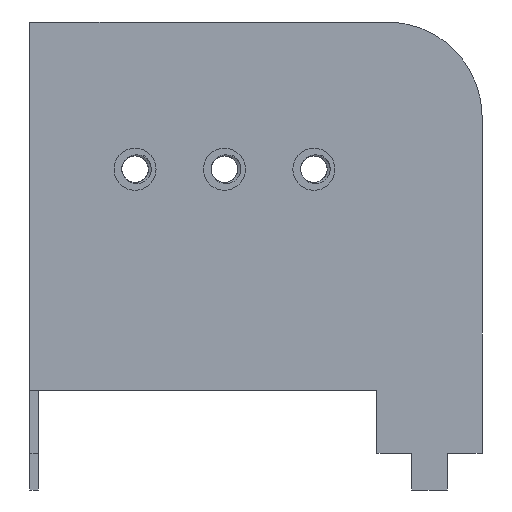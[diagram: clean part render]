
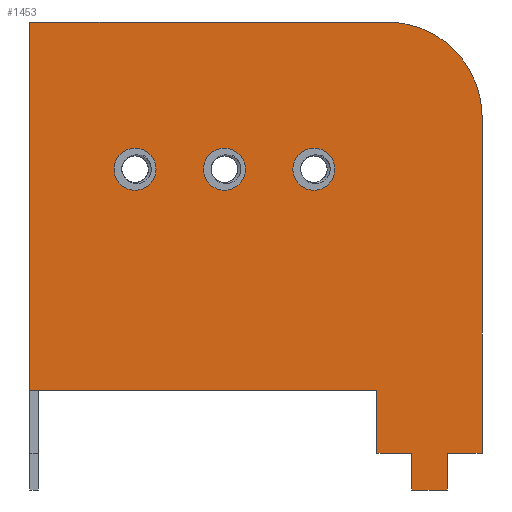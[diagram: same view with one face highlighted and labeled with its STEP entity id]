
A CAD part, front view. The second image highlights one B-rep face of the part: STEP entity #1453.
In plain terms, the highlighted planar face has unit normal (0, -1, 0).
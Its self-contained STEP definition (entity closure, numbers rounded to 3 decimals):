
#26=FACE_BOUND('',#194,.T.);
#27=FACE_BOUND('',#195,.T.);
#28=FACE_BOUND('',#196,.T.);
#48=PLANE('',#1563);
#110=FACE_OUTER_BOUND('',#193,.T.);
#193=EDGE_LOOP('',(#1119,#1120,#1121,#1122,#1123,#1124,#1125,#1126,#1127,
#1128,#1129));
#194=EDGE_LOOP('',(#1130));
#195=EDGE_LOOP('',(#1131));
#196=EDGE_LOOP('',(#1132));
#256=CIRCLE('',#1564,9.);
#257=CIRCLE('',#1565,2.);
#258=CIRCLE('',#1566,2.);
#259=CIRCLE('',#1567,2.);
#424=LINE('',#3176,#521);
#425=LINE('',#3178,#522);
#426=LINE('',#3180,#523);
#427=LINE('',#3182,#524);
#428=LINE('',#3184,#525);
#429=LINE('',#3186,#526);
#430=LINE('',#3188,#527);
#431=LINE('',#3190,#528);
#432=LINE('',#3194,#529);
#433=LINE('',#3195,#530);
#521=VECTOR('',#1800,10.);
#522=VECTOR('',#1801,10.);
#523=VECTOR('',#1802,10.);
#524=VECTOR('',#1803,10.);
#525=VECTOR('',#1804,10.);
#526=VECTOR('',#1805,10.);
#527=VECTOR('',#1806,10.);
#528=VECTOR('',#1807,10.);
#529=VECTOR('',#1810,10.);
#530=VECTOR('',#1811,10.);
#662=VERTEX_POINT('',#3174);
#663=VERTEX_POINT('',#3175);
#664=VERTEX_POINT('',#3177);
#665=VERTEX_POINT('',#3179);
#666=VERTEX_POINT('',#3181);
#667=VERTEX_POINT('',#3183);
#668=VERTEX_POINT('',#3185);
#669=VERTEX_POINT('',#3187);
#670=VERTEX_POINT('',#3189);
#671=VERTEX_POINT('',#3191);
#672=VERTEX_POINT('',#3193);
#673=VERTEX_POINT('',#3196);
#674=VERTEX_POINT('',#3198);
#675=VERTEX_POINT('',#3200);
#848=EDGE_CURVE('',#662,#663,#424,.T.);
#849=EDGE_CURVE('',#664,#662,#425,.T.);
#850=EDGE_CURVE('',#665,#664,#426,.T.);
#851=EDGE_CURVE('',#666,#665,#427,.T.);
#852=EDGE_CURVE('',#667,#666,#428,.T.);
#853=EDGE_CURVE('',#668,#667,#429,.T.);
#854=EDGE_CURVE('',#669,#668,#430,.T.);
#855=EDGE_CURVE('',#670,#669,#431,.T.);
#856=EDGE_CURVE('',#671,#670,#256,.T.);
#857=EDGE_CURVE('',#672,#671,#432,.T.);
#858=EDGE_CURVE('',#663,#672,#433,.T.);
#859=EDGE_CURVE('',#673,#673,#257,.T.);
#860=EDGE_CURVE('',#674,#674,#258,.T.);
#861=EDGE_CURVE('',#675,#675,#259,.T.);
#1119=ORIENTED_EDGE('',*,*,#848,.F.);
#1120=ORIENTED_EDGE('',*,*,#849,.F.);
#1121=ORIENTED_EDGE('',*,*,#850,.F.);
#1122=ORIENTED_EDGE('',*,*,#851,.F.);
#1123=ORIENTED_EDGE('',*,*,#852,.F.);
#1124=ORIENTED_EDGE('',*,*,#853,.F.);
#1125=ORIENTED_EDGE('',*,*,#854,.F.);
#1126=ORIENTED_EDGE('',*,*,#855,.F.);
#1127=ORIENTED_EDGE('',*,*,#856,.F.);
#1128=ORIENTED_EDGE('',*,*,#857,.F.);
#1129=ORIENTED_EDGE('',*,*,#858,.F.);
#1130=ORIENTED_EDGE('',*,*,#859,.T.);
#1131=ORIENTED_EDGE('',*,*,#860,.T.);
#1132=ORIENTED_EDGE('',*,*,#861,.T.);
#1453=ADVANCED_FACE('',(#110,#26,#27,#28),#48,.F.);
#1563=AXIS2_PLACEMENT_3D('',#3173,#1798,#1799);
#1564=AXIS2_PLACEMENT_3D('',#3192,#1808,#1809);
#1565=AXIS2_PLACEMENT_3D('',#3197,#1812,#1813);
#1566=AXIS2_PLACEMENT_3D('',#3199,#1814,#1815);
#1567=AXIS2_PLACEMENT_3D('',#3201,#1816,#1817);
#1798=DIRECTION('center_axis',(0.,1.,0.));
#1799=DIRECTION('ref_axis',(1.,0.,0.));
#1800=DIRECTION('',(-1.,0.,0.));
#1801=DIRECTION('',(0.,0.,1.));
#1802=DIRECTION('',(-1.,0.,0.));
#1803=DIRECTION('',(0.,0.,1.));
#1804=DIRECTION('',(-1.,0.,0.));
#1805=DIRECTION('',(0.,0.,-1.));
#1806=DIRECTION('',(-1.,0.,0.));
#1807=DIRECTION('',(0.,0.,-1.));
#1808=DIRECTION('center_axis',(0.,1.,0.));
#1809=DIRECTION('ref_axis',(0.,0.,1.));
#1810=DIRECTION('',(1.,0.,0.));
#1811=DIRECTION('',(0.,0.,1.));
#1812=DIRECTION('center_axis',(0.,1.,0.));
#1813=DIRECTION('ref_axis',(1.,0.,0.));
#1814=DIRECTION('center_axis',(0.,1.,0.));
#1815=DIRECTION('ref_axis',(1.,0.,0.));
#1816=DIRECTION('center_axis',(0.,1.,0.));
#1817=DIRECTION('ref_axis',(1.,0.,0.));
#3173=CARTESIAN_POINT('Origin',(0.,0.,17.5));
#3174=CARTESIAN_POINT('',(11.5,0.,0.));
#3175=CARTESIAN_POINT('',(-21.5,0.,0.));
#3176=CARTESIAN_POINT('',(21.5,0.,0.));
#3177=CARTESIAN_POINT('',(11.5,0.,-6.));
#3178=CARTESIAN_POINT('',(11.5,0.,-6.));
#3179=CARTESIAN_POINT('',(14.8,0.,-6.));
#3180=CARTESIAN_POINT('',(21.5,0.,-6.));
#3181=CARTESIAN_POINT('',(14.8,0.,-9.5));
#3182=CARTESIAN_POINT('',(14.8,0.,-9.5));
#3183=CARTESIAN_POINT('',(18.2,0.,-9.5));
#3184=CARTESIAN_POINT('',(18.2,0.,-9.5));
#3185=CARTESIAN_POINT('',(18.2,0.,-6.));
#3186=CARTESIAN_POINT('',(18.2,0.,-6.));
#3187=CARTESIAN_POINT('',(21.5,0.,-6.));
#3188=CARTESIAN_POINT('',(21.5,0.,-6.));
#3189=CARTESIAN_POINT('',(21.5,0.,26.));
#3190=CARTESIAN_POINT('',(21.5,0.,26.));
#3191=CARTESIAN_POINT('',(12.5,0.,35.));
#3192=CARTESIAN_POINT('Origin',(12.5,0.,26.));
#3193=CARTESIAN_POINT('',(-21.5,0.,35.));
#3194=CARTESIAN_POINT('',(-21.5,0.,35.));
#3195=CARTESIAN_POINT('',(-21.5,0.,0.));
#3196=CARTESIAN_POINT('',(-13.5,0.,21.));
#3197=CARTESIAN_POINT('Origin',(-11.5,0.,21.));
#3198=CARTESIAN_POINT('',(-5.,0.,21.));
#3199=CARTESIAN_POINT('Origin',(-3.,0.,21.));
#3200=CARTESIAN_POINT('',(3.5,0.,21.));
#3201=CARTESIAN_POINT('Origin',(5.5,0.,21.));
